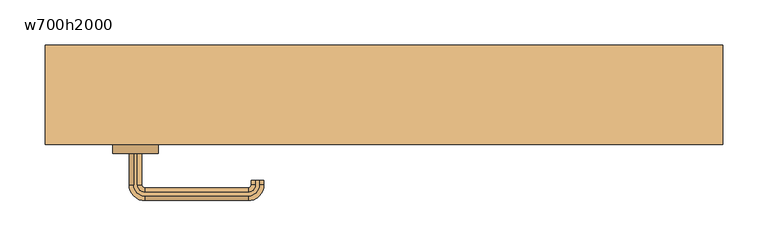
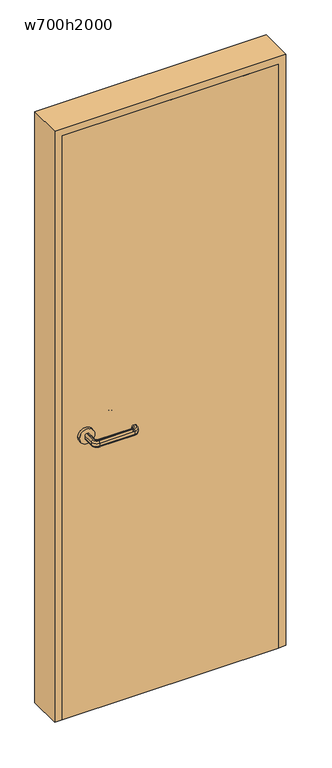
"""IFC4 building model written with IfcOpenShell, lengths in millimetres: door geometry, 片開き : w700h2000."""

from ifc_helpers import new_model, si_unit, point, frame, frame_2d, origin, origin_with_axes, place, context, project, spatial, polyline, circle_curve, ellipse_curve, trimmed, segment, composite_curve, outline, extrude, source, transform, mapped, element, save
from ifc_brep_helpers import plane_surface, cylinder_surface, revolved_surface, advanced_brep


def w700h2000_46fb6d5c(model_context):
    return source(origin(), model_context, "Body", "SolidModel", [
        advanced_brep(
        [(-277.0, -65.0, 960.0), (-273.0, -65.0, 960.0), (-268.0, -65.0, 955.0), (-268.0, -65.0, 945.0477623), (-273.0, -65.0, 940.0477623), (-277.0, -65.0, 940.0477623), (-282.0, -65.0, 945.0477623), (-282.0, -65.0, 955.0), (-282.0, -100.0, 955.0), (-277.0, -100.0, 960.0), (-282.0, -100.0, 945.0477623), (-277.0, -100.0, 940.0477623), (-273.0, -100.0, 940.0477623), (-265.0, -108.0, 940.0477623), (-150.0, -108.0, 940.0477623), (-142.0, -100.0, 940.0477623), (-142.0, -95.0, 940.0477623), (-138.0, -95.0, 940.0477623), (-138.0, -100.0, 940.0477623), (-150.0, -112.0, 940.0477623), (-265.0, -112.0, 940.0477623), (-268.0, -100.0, 945.0477623), (-268.0, -100.0, 955.0), (-273.0, -100.0, 960.0), (-265.0, -112.0, 960.0), (-150.0, -112.0, 960.0), (-138.0, -100.0, 960.0), (-138.0, -95.0, 960.0), (-142.0, -95.0, 960.0), (-142.0, -100.0, 960.0), (-150.0, -108.0, 960.0), (-265.0, -108.0, 960.0), (-265.0, -117.0, 955.0), (-265.0, -117.0, 945.0477623), (-265.0, -103.0, 945.0477623), (-265.0, -103.0, 955.0), (-150.0, -117.0, 955.0), (-150.0, -117.0, 945.0477623), (-150.0, -103.0, 945.0477623), (-150.0, -103.0, 955.0), (-133.0, -100.0, 955.0), (-133.0, -100.0, 945.0477623), (-147.0, -100.0, 945.0477623), (-147.0, -100.0, 955.0), (-133.0, -95.0, 955.0), (-133.0, -95.0, 945.0477623), (-147.0, -95.0, 945.0477623), (-147.0, -95.0, 955.0)],
        [
            (0, 1),
            (1, 2, circle_curve(frame((-273.0, -65.0, 955.0), z_axis=(0.0, 1.0, 0.0), x_axis=(-1.0, 0.0, 0.0)), 5.0)),
            (2, 3),
            (3, 4, circle_curve(frame((-273.0, -65.0, 945.0477623), z_axis=(0.0, 1.0, 0.0), x_axis=(-1.0, 0.0, 0.0)), 5.0)),
            (4, 5),
            (5, 6, circle_curve(frame((-277.0, -65.0, 945.0477623), z_axis=(0.0, 1.0, 0.0), x_axis=(-1.0, 0.0, 0.0)), 5.0)),
            (6, 7),
            (7, 0, circle_curve(frame((-277.0, -65.0, 955.0), z_axis=(0.0, 1.0, 0.0), x_axis=(-1.0, 0.0, 0.0)), 5.0)),
            (7, 8),
            (8, 9, circle_curve(frame((-277.0, -100.0, 955.0), z_axis=(0.0, 1.0, 0.0), x_axis=(-1.0, 0.0, 0.0)), 5.0)),
            (9, 0),
            (6, 10),
            (10, 8),
            (5, 11),
            (11, 10, circle_curve(frame((-277.0, -100.0, 945.0477623), z_axis=(0.0, 1.0, 0.0), x_axis=(-1.0, 0.0, 0.0)), 5.0)),
            (4, 12),
            (12, 13, circle_curve(frame((-265.0, -100.0, 940.0477623), z_axis=(0.0, 0.0, 1.0), x_axis=(-1.0, 0.0, 0.0)), 8.0)),
            (13, 14),
            (14, 15, circle_curve(frame((-150.0, -100.0, 940.0477623), z_axis=(0.0, 0.0, 1.0), x_axis=(0.0, -1.0, 0.0)), 8.0)),
            (15, 16),
            (16, 17),
            (17, 18),
            (18, 19, circle_curve(frame((-150.0, -100.0, 940.0477623), z_axis=(0.0, 0.0, -1.0), x_axis=(0.0, -1.0, 0.0)), 12.0)),
            (19, 20),
            (20, 11, circle_curve(frame((-265.0, -100.0, 940.0477623), z_axis=(0.0, 0.0, -1.0), x_axis=(-1.0, 0.0, 0.0)), 12.0)),
            (3, 21),
            (21, 12, circle_curve(frame((-273.0, -100.0, 945.0477623), z_axis=(0.0, 1.0, 0.0), x_axis=(-1.0, 0.0, 0.0)), 5.0)),
            (2, 22),
            (22, 21),
            (1, 23),
            (23, 22, circle_curve(frame((-273.0, -100.0, 955.0), z_axis=(0.0, 1.0, 0.0), x_axis=(-1.0, 0.0, 0.0)), 5.0)),
            (9, 24, circle_curve(frame((-265.0, -100.0, 960.0), z_axis=(0.0, 0.0, 1.0), x_axis=(-1.0, 0.0, 0.0)), 12.0)),
            (24, 25),
            (25, 26, circle_curve(frame((-150.0, -100.0, 960.0), z_axis=(0.0, 0.0, 1.0), x_axis=(0.0, -1.0, 0.0)), 12.0)),
            (26, 27),
            (27, 28),
            (28, 29),
            (29, 30, circle_curve(frame((-150.0, -100.0, 960.0), z_axis=(0.0, 0.0, -1.0), x_axis=(0.0, -1.0, 0.0)), 8.0)),
            (30, 31),
            (31, 23, circle_curve(frame((-265.0, -100.0, 960.0), z_axis=(0.0, 0.0, -1.0), x_axis=(-1.0, 0.0, 0.0)), 8.0)),
            (32, 24, circle_curve(frame((-265.0, -112.0, 955.0), z_axis=(-1.0, 0.0, 0.0), x_axis=(0.0, -1.0, 0.0)), 5.0)),
            (8, 32, circle_curve(frame((-265.0, -100.0, 955.0), z_axis=(0.0, 0.0, 1.0), x_axis=(-1.0, 0.0, 0.0)), 17.0)),
            (33, 32),
            (10, 33, circle_curve(frame((-265.0, -100.0, 945.0477623), z_axis=(0.0, 0.0, 1.0), x_axis=(-1.0, 0.0, 0.0)), 17.0)),
            (20, 33, circle_curve(frame((-265.0, -112.0, 945.0477623), z_axis=(-1.0, 0.0, 0.0), x_axis=(0.0, -1.0, 0.0)), 5.0)),
            (34, 13, circle_curve(frame((-265.0, -108.0, 945.0477623), z_axis=(-1.0, 0.0, 0.0), x_axis=(0.0, -1.0, 0.0)), 5.0)),
            (21, 34, circle_curve(frame((-265.0, -100.0, 945.0477623), z_axis=(0.0, 0.0, 1.0), x_axis=(-1.0, 0.0, 0.0)), 3.0)),
            (35, 34),
            (22, 35, circle_curve(frame((-265.0, -100.0, 955.0), z_axis=(0.0, 0.0, 1.0), x_axis=(-1.0, 0.0, 0.0)), 3.0)),
            (31, 35, circle_curve(frame((-265.0, -108.0, 955.0), z_axis=(-1.0, 0.0, 0.0), x_axis=(0.0, -1.0, 0.0)), 5.0)),
            (32, 36),
            (36, 25, circle_curve(frame((-150.0, -112.0, 955.0), z_axis=(-1.0, 0.0, 0.0), x_axis=(0.0, -1.0, 0.0)), 5.0)),
            (33, 37),
            (37, 36),
            (19, 37, circle_curve(frame((-150.0, -112.0, 945.0477623), z_axis=(-1.0, 0.0, 0.0), x_axis=(0.0, -1.0, 0.0)), 5.0)),
            (34, 38),
            (38, 14, circle_curve(frame((-150.0, -108.0, 945.0477623), z_axis=(-1.0, 0.0, 0.0), x_axis=(0.0, -1.0, 0.0)), 5.0)),
            (35, 39),
            (39, 38),
            (30, 39, circle_curve(frame((-150.0, -108.0, 955.0), z_axis=(-1.0, 0.0, 0.0), x_axis=(0.0, -1.0, 0.0)), 5.0)),
            (40, 26, circle_curve(frame((-138.0, -100.0, 955.0), z_axis=(0.0, -1.0, 0.0), x_axis=(1.0, 0.0, 0.0)), 5.0)),
            (36, 40, circle_curve(frame((-150.0, -100.0, 955.0), z_axis=(0.0, 0.0, 1.0), x_axis=(0.0, -1.0, 0.0)), 17.0)),
            (41, 40),
            (37, 41, circle_curve(frame((-150.0, -100.0, 945.0477623), z_axis=(0.0, 0.0, 1.0), x_axis=(0.0, -1.0, 0.0)), 17.0)),
            (18, 41, circle_curve(frame((-138.0, -100.0, 945.0477623), z_axis=(0.0, -1.0, 0.0), x_axis=(1.0, 0.0, 0.0)), 5.0)),
            (42, 15, circle_curve(frame((-142.0, -100.0, 945.0477623), z_axis=(0.0, -1.0, 0.0), x_axis=(1.0, 0.0, 0.0)), 5.0)),
            (38, 42, circle_curve(frame((-150.0, -100.0, 945.0477623), z_axis=(0.0, 0.0, 1.0), x_axis=(0.0, -1.0, 0.0)), 3.0)),
            (43, 42),
            (39, 43, circle_curve(frame((-150.0, -100.0, 955.0), z_axis=(0.0, 0.0, 1.0), x_axis=(0.0, -1.0, 0.0)), 3.0)),
            (29, 43, circle_curve(frame((-142.0, -100.0, 955.0), z_axis=(0.0, -1.0, 0.0), x_axis=(1.0, 0.0, 0.0)), 5.0)),
            (27, 44, circle_curve(frame((-138.0, -95.0, 955.0), z_axis=(0.0, 1.0, 0.0), x_axis=(1.0, 0.0, 0.0)), 5.0)),
            (44, 45),
            (45, 17, circle_curve(frame((-138.0, -95.0, 945.0477623), z_axis=(0.0, 1.0, 0.0), x_axis=(1.0, 0.0, 0.0)), 5.0)),
            (16, 46, circle_curve(frame((-142.0, -95.0, 945.0477623), z_axis=(0.0, 1.0, 0.0), x_axis=(1.0, 0.0, 0.0)), 5.0)),
            (46, 47),
            (47, 28, circle_curve(frame((-142.0, -95.0, 955.0), z_axis=(0.0, 1.0, 0.0), x_axis=(1.0, 0.0, 0.0)), 5.0)),
            (40, 44),
            (41, 45),
            (42, 46),
            (43, 47),
        ],
        [
            plane_surface(frame((-285.198039, -65.0, 950.0), z_axis=(0.0, 1.0, 0.0), x_axis=(0.0, 0.0, 1.0))),
            cylinder_surface(frame((-277.0, -65.0, 955.0), z_axis=(0.0, 1.0, 0.0), x_axis=(-1.0, 0.0, 0.0)), 5.0),
            plane_surface(frame((-282.0, -65.0, 955.0), z_axis=(-1.0, 0.0, 0.0), x_axis=(0.0, -1.0, 0.0))),
            cylinder_surface(frame((-277.0, -65.0, 945.0477623), z_axis=(0.0, 1.0, 0.0), x_axis=(-1.0, 0.0, 0.0)), 5.0),
            plane_surface(frame((-277.0, -65.0, 940.0477623), z_axis=(0.0, 0.0, -1.0), x_axis=(0.0, -1.0, 0.0))),
            cylinder_surface(frame((-273.0, -65.0, 945.0477623), z_axis=(0.0, 1.0, 0.0), x_axis=(-1.0, 0.0, 0.0)), 5.0),
            plane_surface(frame((-268.0, -65.0, 945.0477623), z_axis=(1.0, 0.0, 0.0), x_axis=(0.0, -1.0, 0.0))),
            cylinder_surface(frame((-273.0, -65.0, 955.0), z_axis=(0.0, 1.0, 0.0), x_axis=(-1.0, 0.0, 0.0)), 5.0),
            plane_surface(frame((-273.0, -65.0, 960.0), z_axis=(0.0, 0.0, 1.0), x_axis=(0.0, -1.0, 0.0))),
            revolved_surface(trimmed(ellipse_curve(frame((-277.0, -100.0, 955.0), z_axis=(0.0, -1.0, 0.0), x_axis=(-1.0, 0.0, 0.0)), 5.0, 5.0), [point((-277.0, -100.0, 960.0))], [point((-282.0, -100.0, 955.0))], True, "CARTESIAN"), (-265.0, -100.0, 950.0), (0.0, 0.0, -1.0)),
            cylinder_surface(frame((-265.0, -100.0, 950.0), z_axis=(0.0, 0.0, -1.0), x_axis=(-1.0, 0.0, 0.0)), 17.0),
            revolved_surface(trimmed(ellipse_curve(frame((-277.0, -100.0, 945.0477623), z_axis=(0.0, -1.0, 0.0), x_axis=(-1.0, 0.0, 0.0)), 5.0, 5.0), [point((-282.0, -100.0, 945.0477623))], [point((-277.0, -100.0, 940.0477623))], True, "CARTESIAN"), (-265.0, -100.0, 950.0), (0.0, 0.0, -1.0)),
            revolved_surface(trimmed(ellipse_curve(frame((-273.0, -100.0, 945.0477623), z_axis=(0.0, -1.0, 0.0), x_axis=(-1.0, 0.0, 0.0)), 5.0, 5.0), [point((-273.0, -100.0, 940.0477623))], [point((-268.0, -100.0, 945.0477623))], True, "CARTESIAN"), (-265.0, -100.0, 950.0), (0.0, 0.0, -1.0)),
            revolved_surface(polyline([(-268.0, -100.0, 945.0477623), (-268.0, -100.0, 955.0)]), (-265.0, -100.0, 950.0), (0.0, 0.0, -1.0)),
            revolved_surface(trimmed(ellipse_curve(frame((-273.0, -100.0, 955.0), z_axis=(0.0, -1.0, 0.0), x_axis=(-1.0, 0.0, 0.0)), 5.0, 5.0), [point((-268.0, -100.0, 955.0))], [point((-273.0, -100.0, 960.0))], True, "CARTESIAN"), (-265.0, -100.0, 950.0), (0.0, 0.0, -1.0)),
            cylinder_surface(frame((-265.0, -112.0, 955.0), z_axis=(-1.0, 0.0, 0.0), x_axis=(0.0, -1.0, 0.0)), 5.0),
            plane_surface(frame((-265.0, -117.0, 955.0), z_axis=(0.0, -1.0, 0.0), x_axis=(1.0, 0.0, 0.0))),
            cylinder_surface(frame((-265.0, -112.0, 945.0477623), z_axis=(-1.0, 0.0, 0.0), x_axis=(0.0, -1.0, 0.0)), 5.0),
            cylinder_surface(frame((-265.0, -108.0, 945.0477623), z_axis=(-1.0, 0.0, 0.0), x_axis=(0.0, -1.0, 0.0)), 5.0),
            plane_surface(frame((-265.0, -103.0, 945.0477623), z_axis=(0.0, 1.0, 0.0), x_axis=(1.0, 0.0, 0.0))),
            cylinder_surface(frame((-265.0, -108.0, 955.0), z_axis=(-1.0, 0.0, 0.0), x_axis=(0.0, -1.0, 0.0)), 5.0),
            revolved_surface(trimmed(ellipse_curve(frame((-150.0, -112.0, 955.0), z_axis=(1.0, 0.0, 0.0), x_axis=(0.0, -1.0, 0.0)), 5.0, 5.0), [point((-150.0, -112.0, 960.0))], [point((-150.0, -117.0, 955.0))], True, "CARTESIAN"), (-150.0, -100.0, 950.0), (0.0, 0.0, -1.0)),
            cylinder_surface(frame((-150.0, -100.0, 950.0), z_axis=(0.0, 0.0, -1.0), x_axis=(0.0, -1.0, 0.0)), 17.0),
            revolved_surface(trimmed(ellipse_curve(frame((-150.0, -112.0, 945.0477623), z_axis=(1.0, 0.0, 0.0), x_axis=(0.0, -1.0, 0.0)), 5.0, 5.0), [point((-150.0, -117.0, 945.0477623))], [point((-150.0, -112.0, 940.0477623))], True, "CARTESIAN"), (-150.0, -100.0, 950.0), (0.0, 0.0, -1.0)),
            revolved_surface(trimmed(ellipse_curve(frame((-150.0, -108.0, 945.0477623), z_axis=(1.0, 0.0, 0.0), x_axis=(0.0, -1.0, 0.0)), 5.0, 5.0), [point((-150.0, -108.0, 940.0477623))], [point((-150.0, -103.0, 945.0477623))], True, "CARTESIAN"), (-150.0, -100.0, 950.0), (0.0, 0.0, -1.0)),
            revolved_surface(polyline([(-150.0, -103.0, 945.0477623), (-150.0, -103.0, 955.0)]), (-150.0, -100.0, 950.0), (0.0, 0.0, -1.0)),
            revolved_surface(trimmed(ellipse_curve(frame((-150.0, -108.0, 955.0), z_axis=(1.0, 0.0, 0.0), x_axis=(0.0, -1.0, 0.0)), 5.0, 5.0), [point((-150.0, -103.0, 955.0))], [point((-150.0, -108.0, 960.0))], True, "CARTESIAN"), (-150.0, -100.0, 950.0), (0.0, 0.0, -1.0)),
            plane_surface(frame((-150.198039, -95.0, 950.0), z_axis=(0.0, 1.0, 0.0), x_axis=(0.0, 0.0, -1.0))),
            cylinder_surface(frame((-138.0, -100.0, 955.0), z_axis=(0.0, -1.0, 0.0), x_axis=(1.0, 0.0, 0.0)), 5.0),
            plane_surface(frame((-133.0, -100.0, 955.0), z_axis=(1.0, 0.0, 0.0), x_axis=(0.0, 1.0, 0.0))),
            cylinder_surface(frame((-138.0, -100.0, 945.0477623), z_axis=(0.0, -1.0, 0.0), x_axis=(1.0, 0.0, 0.0)), 5.0),
            cylinder_surface(frame((-142.0, -100.0, 945.0477623), z_axis=(0.0, -1.0, 0.0), x_axis=(1.0, 0.0, 0.0)), 5.0),
            plane_surface(frame((-147.0, -100.0, 945.0477623), z_axis=(-1.0, 0.0, 0.0), x_axis=(0.0, 1.0, 0.0))),
            cylinder_surface(frame((-142.0, -100.0, 955.0), z_axis=(0.0, -1.0, 0.0), x_axis=(1.0, 0.0, 0.0)), 5.0),
        ],
        [
            (0, [[1, 2, 3, 4, 5, 6, 7, 8]]),
            (1, [[9, 10, 11, -8]]),
            (2, [[12, 13, -9, -7]]),
            (3, [[14, 15, -12, -6]]),
            (4, [[16, 17, 18, 19, 20, 21, 22, 23, 24, 25, -14, -5]]),
            (5, [[26, 27, -16, -4]]),
            (6, [[28, 29, -26, -3]]),
            (7, [[30, 31, -28, -2]]),
            (8, [[-11, 32, 33, 34, 35, 36, 37, 38, 39, 40, -30, -1]]),
            (9, [[41, -32, -10, 42]]),
            (10, [[43, -42, -13, 44]]),
            (11, [[45, -44, -15, -25]]),
            (12, [[46, -17, -27, 47]]),
            (13, [[48, -47, -29, 49]]),
            (14, [[50, -49, -31, -40]]),
            (15, [[51, 52, -33, -41]]),
            (16, [[53, 54, -51, -43]]),
            (17, [[-24, 55, -53, -45]]),
            (18, [[56, 57, -18, -46]]),
            (19, [[58, 59, -56, -48]]),
            (20, [[-39, 60, -58, -50]]),
            (21, [[61, -34, -52, 62]]),
            (22, [[63, -62, -54, 64]]),
            (23, [[65, -64, -55, -23]]),
            (24, [[66, -19, -57, 67]]),
            (25, [[68, -67, -59, 69]]),
            (26, [[70, -69, -60, -38]]),
            (27, [[71, 72, 73, -21, 74, 75, 76, -36]]),
            (28, [[77, -71, -35, -61]]),
            (29, [[78, -72, -77, -63]]),
            (30, [[-22, -73, -78, -65]]),
            (31, [[79, -74, -20, -66]]),
            (32, [[80, -75, -79, -68]]),
            (33, [[-37, -76, -80, -70]]),
        ],
    ),
        advanced_brep(
        [(-273.0, -15.0, 940.0), (-268.0, -15.0, 945.0), (-268.0, -15.0, 955.0), (-273.0, -15.0, 960.0), (-277.0, -15.0, 960.0), (-282.0, -15.0, 955.0), (-282.0, -15.0, 945.0), (-277.0, -15.0, 940.0), (-277.0, 20.0, 940.0), (-265.0, 32.0, 940.0), (-150.0, 32.0, 940.0), (-138.0, 20.0, 940.0), (-138.0, 15.0, 940.0), (-142.0, 15.0, 940.0), (-142.0, 20.0, 940.0), (-150.0, 28.0, 940.0), (-265.0, 28.0, 940.0), (-273.0, 20.0, 940.0), (-282.0, 20.0, 945.0), (-282.0, 20.0, 955.0), (-277.0, 20.0, 960.0), (-273.0, 20.0, 960.0), (-265.0, 28.0, 960.0), (-150.0, 28.0, 960.0), (-142.0, 20.0, 960.0), (-142.0, 15.0, 960.0), (-138.0, 15.0, 960.0), (-138.0, 20.0, 960.0), (-150.0, 32.0, 960.0), (-265.0, 32.0, 960.0), (-268.0, 20.0, 955.0), (-268.0, 20.0, 945.0), (-265.0, 37.0, 945.0), (-265.0, 37.0, 955.0), (-265.0, 23.0, 955.0), (-265.0, 23.0, 945.0), (-150.0, 37.0, 945.0), (-150.0, 37.0, 955.0), (-150.0, 23.0, 955.0), (-150.0, 23.0, 945.0), (-133.0, 20.0, 945.0), (-133.0, 20.0, 955.0), (-147.0, 20.0, 955.0), (-147.0, 20.0, 945.0), (-133.0, 15.0, 945.0), (-133.0, 15.0, 955.0), (-147.0, 15.0, 955.0), (-147.0, 15.0, 945.0)],
        [
            (0, 1, circle_curve(frame((-273.0, -15.0, 945.0), z_axis=(0.0, -1.0, 0.0), x_axis=(1.0, 0.0, 0.0)), 5.0)),
            (1, 2),
            (2, 3, circle_curve(frame((-273.0, -15.0, 955.0), z_axis=(0.0, -1.0, 0.0), x_axis=(1.0, 0.0, 0.0)), 5.0)),
            (3, 4),
            (4, 5, circle_curve(frame((-277.0, -15.0, 955.0), z_axis=(0.0, -1.0, 0.0), x_axis=(1.0, 0.0, 0.0)), 5.0)),
            (5, 6),
            (6, 7, circle_curve(frame((-277.0, -15.0, 945.0), z_axis=(0.0, -1.0, 0.0), x_axis=(1.0, 0.0, 0.0)), 5.0)),
            (7, 0),
            (7, 8),
            (8, 9, circle_curve(frame((-265.0, 20.0, 940.0), z_axis=(0.0, 0.0, -1.0), x_axis=(-1.0, 0.0, 0.0)), 12.0)),
            (9, 10),
            (10, 11, circle_curve(frame((-150.0, 20.0, 940.0), z_axis=(0.0, 0.0, -1.0), x_axis=(0.0, 1.0, 0.0)), 12.0)),
            (11, 12),
            (12, 13),
            (13, 14),
            (14, 15, circle_curve(frame((-150.0, 20.0, 940.0), z_axis=(0.0, 0.0, 1.0), x_axis=(0.0, 1.0, 0.0)), 8.0)),
            (15, 16),
            (16, 17, circle_curve(frame((-265.0, 20.0, 940.0), z_axis=(0.0, 0.0, 1.0), x_axis=(-1.0, 0.0, 0.0)), 8.0)),
            (17, 0),
            (6, 18),
            (18, 8, circle_curve(frame((-277.0, 20.0, 945.0), z_axis=(0.0, -1.0, 0.0), x_axis=(1.0, 0.0, 0.0)), 5.0)),
            (5, 19),
            (19, 18),
            (4, 20),
            (20, 19, circle_curve(frame((-277.0, 20.0, 955.0), z_axis=(0.0, -1.0, 0.0), x_axis=(1.0, 0.0, 0.0)), 5.0)),
            (3, 21),
            (21, 22, circle_curve(frame((-265.0, 20.0, 960.0), z_axis=(0.0, 0.0, -1.0), x_axis=(-1.0, 0.0, 0.0)), 8.0)),
            (22, 23),
            (23, 24, circle_curve(frame((-150.0, 20.0, 960.0), z_axis=(0.0, 0.0, -1.0), x_axis=(0.0, 1.0, 0.0)), 8.0)),
            (24, 25),
            (25, 26),
            (26, 27),
            (27, 28, circle_curve(frame((-150.0, 20.0, 960.0), z_axis=(0.0, 0.0, 1.0), x_axis=(0.0, 1.0, 0.0)), 12.0)),
            (28, 29),
            (29, 20, circle_curve(frame((-265.0, 20.0, 960.0), z_axis=(0.0, 0.0, 1.0), x_axis=(-1.0, 0.0, 0.0)), 12.0)),
            (2, 30),
            (30, 21, circle_curve(frame((-273.0, 20.0, 955.0), z_axis=(0.0, -1.0, 0.0), x_axis=(1.0, 0.0, 0.0)), 5.0)),
            (1, 31),
            (31, 30),
            (17, 31, circle_curve(frame((-273.0, 20.0, 945.0), z_axis=(0.0, -1.0, 0.0), x_axis=(1.0, 0.0, 0.0)), 5.0)),
            (32, 9, circle_curve(frame((-265.0, 32.0, 945.0), z_axis=(-1.0, 0.0, 0.0), x_axis=(0.0, -1.0, 0.0)), 5.0)),
            (18, 32, circle_curve(frame((-265.0, 20.0, 945.0), z_axis=(0.0, 0.0, -1.0), x_axis=(-1.0, 0.0, 0.0)), 17.0)),
            (33, 32),
            (19, 33, circle_curve(frame((-265.0, 20.0, 955.0), z_axis=(0.0, 0.0, -1.0), x_axis=(-1.0, 0.0, 0.0)), 17.0)),
            (29, 33, circle_curve(frame((-265.0, 32.0, 955.0), z_axis=(-1.0, 0.0, 0.0), x_axis=(0.0, -1.0, 0.0)), 5.0)),
            (34, 22, circle_curve(frame((-265.0, 28.0, 955.0), z_axis=(-1.0, 0.0, 0.0), x_axis=(0.0, -1.0, 0.0)), 5.0)),
            (30, 34, circle_curve(frame((-265.0, 20.0, 955.0), z_axis=(0.0, 0.0, -1.0), x_axis=(-1.0, 0.0, 0.0)), 3.0)),
            (35, 34),
            (31, 35, circle_curve(frame((-265.0, 20.0, 945.0), z_axis=(0.0, 0.0, -1.0), x_axis=(-1.0, 0.0, 0.0)), 3.0)),
            (16, 35, circle_curve(frame((-265.0, 28.0, 945.0), z_axis=(-1.0, 0.0, 0.0), x_axis=(0.0, -1.0, 0.0)), 5.0)),
            (32, 36),
            (36, 10, circle_curve(frame((-150.0, 32.0, 945.0), z_axis=(-1.0, 0.0, 0.0), x_axis=(0.0, -1.0, 0.0)), 5.0)),
            (33, 37),
            (37, 36),
            (28, 37, circle_curve(frame((-150.0, 32.0, 955.0), z_axis=(-1.0, 0.0, 0.0), x_axis=(0.0, -1.0, 0.0)), 5.0)),
            (34, 38),
            (38, 23, circle_curve(frame((-150.0, 28.0, 955.0), z_axis=(-1.0, 0.0, 0.0), x_axis=(0.0, -1.0, 0.0)), 5.0)),
            (35, 39),
            (39, 38),
            (15, 39, circle_curve(frame((-150.0, 28.0, 945.0), z_axis=(-1.0, 0.0, 0.0), x_axis=(0.0, -1.0, 0.0)), 5.0)),
            (40, 11, circle_curve(frame((-138.0, 20.0, 945.0), z_axis=(0.0, 1.0, 0.0), x_axis=(-1.0, 0.0, 0.0)), 5.0)),
            (36, 40, circle_curve(frame((-150.0, 20.0, 945.0), z_axis=(0.0, 0.0, -1.0), x_axis=(0.0, 1.0, 0.0)), 17.0)),
            (41, 40),
            (37, 41, circle_curve(frame((-150.0, 20.0, 955.0), z_axis=(0.0, 0.0, -1.0), x_axis=(0.0, 1.0, 0.0)), 17.0)),
            (27, 41, circle_curve(frame((-138.0, 20.0, 955.0), z_axis=(0.0, 1.0, 0.0), x_axis=(-1.0, 0.0, 0.0)), 5.0)),
            (42, 24, circle_curve(frame((-142.0, 20.0, 955.0), z_axis=(0.0, 1.0, 0.0), x_axis=(-1.0, 0.0, 0.0)), 5.0)),
            (38, 42, circle_curve(frame((-150.0, 20.0, 955.0), z_axis=(0.0, 0.0, -1.0), x_axis=(0.0, 1.0, 0.0)), 3.0)),
            (43, 42),
            (39, 43, circle_curve(frame((-150.0, 20.0, 945.0), z_axis=(0.0, 0.0, -1.0), x_axis=(0.0, 1.0, 0.0)), 3.0)),
            (14, 43, circle_curve(frame((-142.0, 20.0, 945.0), z_axis=(0.0, 1.0, 0.0), x_axis=(-1.0, 0.0, 0.0)), 5.0)),
            (12, 44, circle_curve(frame((-138.0, 15.0, 945.0), z_axis=(0.0, -1.0, 0.0), x_axis=(-1.0, 0.0, 0.0)), 5.0)),
            (44, 45),
            (45, 26, circle_curve(frame((-138.0, 15.0, 955.0), z_axis=(0.0, -1.0, 0.0), x_axis=(-1.0, 0.0, 0.0)), 5.0)),
            (25, 46, circle_curve(frame((-142.0, 15.0, 955.0), z_axis=(0.0, -1.0, 0.0), x_axis=(-1.0, 0.0, 0.0)), 5.0)),
            (46, 47),
            (47, 13, circle_curve(frame((-142.0, 15.0, 945.0), z_axis=(0.0, -1.0, 0.0), x_axis=(-1.0, 0.0, 0.0)), 5.0)),
            (40, 44),
            (41, 45),
            (42, 46),
            (43, 47),
        ],
        [
            plane_surface(frame((-285.198039, -15.0, 950.0), z_axis=(0.0, -1.0, 0.0), x_axis=(0.0, 0.0, -1.0))),
            plane_surface(frame((-273.0, -15.0, 940.0), z_axis=(0.0, 0.0, -1.0), x_axis=(0.0, 1.0, 0.0))),
            cylinder_surface(frame((-277.0, -15.0, 945.0), z_axis=(0.0, -1.0, 0.0), x_axis=(1.0, 0.0, 0.0)), 5.0),
            plane_surface(frame((-282.0, -15.0, 945.0), z_axis=(-1.0, 0.0, 0.0), x_axis=(0.0, 1.0, 0.0))),
            cylinder_surface(frame((-277.0, -15.0, 955.0), z_axis=(0.0, -1.0, 0.0), x_axis=(1.0, 0.0, 0.0)), 5.0),
            plane_surface(frame((-277.0, -15.0, 960.0), z_axis=(0.0, 0.0, 1.0), x_axis=(0.0, 1.0, 0.0))),
            cylinder_surface(frame((-273.0, -15.0, 955.0), z_axis=(0.0, -1.0, 0.0), x_axis=(1.0, 0.0, 0.0)), 5.0),
            plane_surface(frame((-268.0, -15.0, 955.0), z_axis=(1.0, 0.0, 0.0), x_axis=(0.0, 1.0, 0.0))),
            cylinder_surface(frame((-273.0, -15.0, 945.0), z_axis=(0.0, -1.0, 0.0), x_axis=(1.0, 0.0, 0.0)), 5.0),
            revolved_surface(trimmed(ellipse_curve(frame((-277.0, 20.0, 945.0), z_axis=(0.0, 1.0, 0.0), x_axis=(1.0, 0.0, 0.0)), 5.0, 5.0), [point((-277.0, 20.0, 940.0))], [point((-282.0, 20.0, 945.0))], True, "CARTESIAN"), (-265.0, 20.0, 950.0), (0.0, 0.0, 1.0)),
            cylinder_surface(frame((-265.0, 20.0, 950.0), z_axis=(0.0, 0.0, 1.0), x_axis=(-1.0, 0.0, 0.0)), 17.0),
            revolved_surface(trimmed(ellipse_curve(frame((-277.0, 20.0, 955.0), z_axis=(0.0, 1.0, 0.0), x_axis=(1.0, 0.0, 0.0)), 5.0, 5.0), [point((-282.0, 20.0, 955.0))], [point((-277.0, 20.0, 960.0))], True, "CARTESIAN"), (-265.0, 20.0, 950.0), (0.0, 0.0, 1.0)),
            revolved_surface(trimmed(ellipse_curve(frame((-273.0, 20.0, 955.0), z_axis=(0.0, 1.0, 0.0), x_axis=(1.0, 0.0, 0.0)), 5.0, 5.0), [point((-273.0, 20.0, 960.0))], [point((-268.0, 20.0, 955.0))], True, "CARTESIAN"), (-265.0, 20.0, 950.0), (0.0, 0.0, 1.0)),
            revolved_surface(polyline([(-268.0, 20.0, 955.0), (-268.0, 20.0, 945.0)]), (-265.0, 20.0, 950.0), (0.0, 0.0, 1.0)),
            revolved_surface(trimmed(ellipse_curve(frame((-273.0, 20.0, 945.0), z_axis=(0.0, 1.0, 0.0), x_axis=(1.0, 0.0, 0.0)), 5.0, 5.0), [point((-268.0, 20.0, 945.0))], [point((-273.0, 20.0, 940.0))], True, "CARTESIAN"), (-265.0, 20.0, 950.0), (0.0, 0.0, 1.0)),
            cylinder_surface(frame((-265.0, 32.0, 945.0), z_axis=(-1.0, 0.0, 0.0), x_axis=(0.0, -1.0, 0.0)), 5.0),
            plane_surface(frame((-265.0, 37.0, 945.0), z_axis=(0.0, 1.0, 0.0), x_axis=(1.0, 0.0, 0.0))),
            cylinder_surface(frame((-265.0, 32.0, 955.0), z_axis=(-1.0, 0.0, 0.0), x_axis=(0.0, -1.0, 0.0)), 5.0),
            cylinder_surface(frame((-265.0, 28.0, 955.0), z_axis=(-1.0, 0.0, 0.0), x_axis=(0.0, -1.0, 0.0)), 5.0),
            plane_surface(frame((-265.0, 23.0, 955.0), z_axis=(0.0, -1.0, 0.0), x_axis=(1.0, 0.0, 0.0))),
            cylinder_surface(frame((-265.0, 28.0, 945.0), z_axis=(-1.0, 0.0, 0.0), x_axis=(0.0, -1.0, 0.0)), 5.0),
            revolved_surface(trimmed(ellipse_curve(frame((-150.0, 32.0, 945.0), z_axis=(1.0, 0.0, 0.0), x_axis=(0.0, -1.0, 0.0)), 5.0, 5.0), [point((-150.0, 32.0, 940.0))], [point((-150.0, 37.0, 945.0))], True, "CARTESIAN"), (-150.0, 20.0, 950.0), (0.0, 0.0, 1.0)),
            cylinder_surface(frame((-150.0, 20.0, 950.0), z_axis=(0.0, 0.0, 1.0), x_axis=(0.0, 1.0, 0.0)), 17.0),
            revolved_surface(trimmed(ellipse_curve(frame((-150.0, 32.0, 955.0), z_axis=(1.0, 0.0, 0.0), x_axis=(0.0, -1.0, 0.0)), 5.0, 5.0), [point((-150.0, 37.0, 955.0))], [point((-150.0, 32.0, 960.0))], True, "CARTESIAN"), (-150.0, 20.0, 950.0), (0.0, 0.0, 1.0)),
            revolved_surface(trimmed(ellipse_curve(frame((-150.0, 28.0, 955.0), z_axis=(1.0, 0.0, 0.0), x_axis=(0.0, -1.0, 0.0)), 5.0, 5.0), [point((-150.0, 28.0, 960.0))], [point((-150.0, 23.0, 955.0))], True, "CARTESIAN"), (-150.0, 20.0, 950.0), (0.0, 0.0, 1.0)),
            revolved_surface(polyline([(-150.0, 23.0, 955.0), (-150.0, 23.0, 945.0)]), (-150.0, 20.0, 950.0), (0.0, 0.0, 1.0)),
            revolved_surface(trimmed(ellipse_curve(frame((-150.0, 28.0, 945.0), z_axis=(1.0, 0.0, 0.0), x_axis=(0.0, -1.0, 0.0)), 5.0, 5.0), [point((-150.0, 23.0, 945.0))], [point((-150.0, 28.0, 940.0))], True, "CARTESIAN"), (-150.0, 20.0, 950.0), (0.0, 0.0, 1.0)),
            plane_surface(frame((-150.198039, 15.0, 950.0), z_axis=(0.0, -1.0, 0.0), x_axis=(0.0, 0.0, 1.0))),
            cylinder_surface(frame((-138.0, 20.0, 945.0), z_axis=(0.0, 1.0, 0.0), x_axis=(-1.0, 0.0, 0.0)), 5.0),
            plane_surface(frame((-133.0, 20.0, 945.0), z_axis=(1.0, 0.0, 0.0), x_axis=(0.0, -1.0, 0.0))),
            cylinder_surface(frame((-138.0, 20.0, 955.0), z_axis=(0.0, 1.0, 0.0), x_axis=(-1.0, 0.0, 0.0)), 5.0),
            cylinder_surface(frame((-142.0, 20.0, 955.0), z_axis=(0.0, 1.0, 0.0), x_axis=(-1.0, 0.0, 0.0)), 5.0),
            plane_surface(frame((-147.0, 20.0, 955.0), z_axis=(-1.0, 0.0, 0.0), x_axis=(0.0, -1.0, 0.0))),
            cylinder_surface(frame((-142.0, 20.0, 945.0), z_axis=(0.0, 1.0, 0.0), x_axis=(-1.0, 0.0, 0.0)), 5.0),
        ],
        [
            (0, [[1, 2, 3, 4, 5, 6, 7, 8]]),
            (1, [[9, 10, 11, 12, 13, 14, 15, 16, 17, 18, 19, -8]]),
            (2, [[20, 21, -9, -7]]),
            (3, [[22, 23, -20, -6]]),
            (4, [[24, 25, -22, -5]]),
            (5, [[26, 27, 28, 29, 30, 31, 32, 33, 34, 35, -24, -4]]),
            (6, [[36, 37, -26, -3]]),
            (7, [[38, 39, -36, -2]]),
            (8, [[-19, 40, -38, -1]]),
            (9, [[41, -10, -21, 42]]),
            (10, [[43, -42, -23, 44]]),
            (11, [[45, -44, -25, -35]]),
            (12, [[46, -27, -37, 47]]),
            (13, [[48, -47, -39, 49]]),
            (14, [[50, -49, -40, -18]]),
            (15, [[51, 52, -11, -41]]),
            (16, [[53, 54, -51, -43]]),
            (17, [[-34, 55, -53, -45]]),
            (18, [[56, 57, -28, -46]]),
            (19, [[58, 59, -56, -48]]),
            (20, [[-17, 60, -58, -50]]),
            (21, [[61, -12, -52, 62]]),
            (22, [[63, -62, -54, 64]]),
            (23, [[65, -64, -55, -33]]),
            (24, [[66, -29, -57, 67]]),
            (25, [[68, -67, -59, 69]]),
            (26, [[70, -69, -60, -16]]),
            (27, [[-14, 71, 72, 73, -31, 74, 75, 76]]),
            (28, [[77, -71, -13, -61]]),
            (29, [[78, -72, -77, -63]]),
            (30, [[-32, -73, -78, -65]]),
            (31, [[79, -74, -30, -66]]),
            (32, [[80, -75, -79, -68]]),
            (33, [[-15, -76, -80, -70]]),
        ],
    ),
        extrude(outline(composite_curve([segment(trimmed(circle_curve(frame_2d((950.0, -275.0)), 25.0), [point((950.0, -300.0))], [point((950.0, -250.0))], False, "CARTESIAN"), True, "CONTINUOUS"), segment(trimmed(circle_curve(frame_2d((950.0, -275.0)), 25.0), [point((950.0, -250.0))], [point((950.0, -300.0))], False, "CARTESIAN"), True, "CONTINUOUS")], self_intersect=False)), frame((0.0, -65.0, 0.0), z_axis=(0.0, 1.0, 0.0), x_axis=(0.0, 0.0, 1.0)), (0.0, 0.0, 1.0), 10.0),
        extrude(outline(composite_curve([segment(trimmed(circle_curve(frame_2d((950.0, -275.0)), 25.0), [point((950.0, -300.0))], [point((950.0, -250.0))], False, "CARTESIAN"), True, "CONTINUOUS"), segment(trimmed(circle_curve(frame_2d((950.0, -275.0)), 25.0), [point((950.0, -250.0))], [point((950.0, -300.0))], False, "CARTESIAN"), True, "CONTINUOUS")], self_intersect=False)), frame((0.0, -25.0, 0.0), z_axis=(0.0, 1.0, 0.0), x_axis=(0.0, 0.0, 1.0)), (0.0, 0.0, 1.0), 10.0),
        extrude(outline(polyline([(350.0, -25.0), (350.0, -55.0), (-350.0, -55.0), (-350.0, -25.0), (350.0, -25.0)])), origin_with_axes(), (0.0, 0.0, 1.0), 2000.0),
        extrude(outline(polyline([(2025.0, -375.0), (0.0, -375.0), (0.0, -350.0), (2000.0, -350.0), (2000.0, 350.0), (0.0, 350.0), (0.0, 375.0), (2025.0, 375.0), (2025.0, -375.0)])), frame((0.0, -55.0, 0.0), z_axis=(0.0, 1.0, 0.0), x_axis=(0.0, 0.0, 1.0)), (0.0, 0.0, 1.0), 110.0),
    ])


if __name__ == "__main__":
    model = new_model("IFC4")
    model_context = context("Model", 3, world=origin())
    ifc_project = project(units=[si_unit("LENGTHUNIT", "METRE", prefix="MILLI")], contexts=[model_context])
    site = spatial("IfcSite", under=ifc_project)
    building = spatial("IfcBuilding", under=site)
    placement = place(None, origin())
    w700h2000_shape = w700h2000_46fb6d5c(model_context)
    element("IfcDoor", 1, ObjectType="片開き : w700h2000", at=placement, inside=building, context=model_context, shape_type="MappedRepresentation", body=[
        mapped(w700h2000_shape, transform((0.0, 0.0, 0.0), x_axis=(1.0, 0.0, 0.0), y_axis=(0.0, 1.0, 0.0), z_axis=(0.0, 0.0, 1.0))),
    ])
    save(model, "model.ifc")
